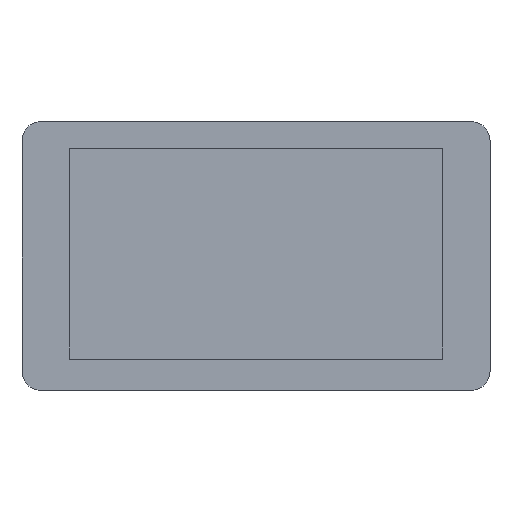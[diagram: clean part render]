
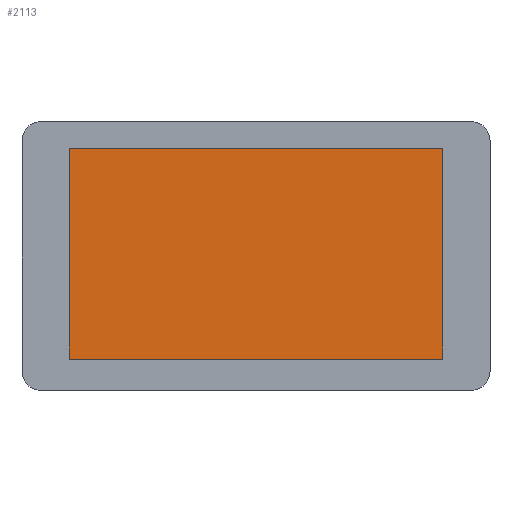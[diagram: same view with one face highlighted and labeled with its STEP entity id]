
A CAD part, top view. The second image highlights one B-rep face of the part: STEP entity #2113.
In plain terms, the highlighted planar face has unit normal (0, 0, 1).
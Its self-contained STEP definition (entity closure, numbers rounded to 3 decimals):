
#154=DIRECTION('',(0.,1.,0.));
#155=VECTOR('',#154,87.);
#156=CARTESIAN_POINT('',(77.,-42.5,1.4));
#157=LINE('',#156,#155);
#158=DIRECTION('',(1.,0.,0.));
#159=VECTOR('',#158,154.);
#160=CARTESIAN_POINT('',(-77.,-42.5,1.4));
#161=LINE('',#160,#159);
#162=DIRECTION('',(0.,-1.,0.));
#163=VECTOR('',#162,87.);
#164=CARTESIAN_POINT('',(-77.,44.5,1.4));
#165=LINE('',#164,#163);
#166=DIRECTION('',(-1.,0.,0.));
#167=VECTOR('',#166,154.);
#168=CARTESIAN_POINT('',(77.,44.5,1.4));
#169=LINE('',#168,#167);
#1858=CARTESIAN_POINT('',(77.,-42.5,1.4));
#1859=CARTESIAN_POINT('',(77.,44.5,1.4));
#1860=VERTEX_POINT('',#1858);
#1861=VERTEX_POINT('',#1859);
#1862=CARTESIAN_POINT('',(-77.,44.5,1.4));
#1863=VERTEX_POINT('',#1862);
#1864=CARTESIAN_POINT('',(-77.,-42.5,1.4));
#1865=VERTEX_POINT('',#1864);
#2102=CARTESIAN_POINT('',(0.,66.591,1.4));
#2103=DIRECTION('',(0.,0.,1.));
#2104=DIRECTION('',(1.,0.,0.));
#2105=AXIS2_PLACEMENT_3D('',#2102,#2103,#2104);
#2106=PLANE('',#2105);
#2107=ORIENTED_EDGE('',*,*,#2054,.F.);
#2108=ORIENTED_EDGE('',*,*,#2069,.F.);
#2109=ORIENTED_EDGE('',*,*,#2083,.F.);
#2110=ORIENTED_EDGE('',*,*,#2096,.F.);
#2111=EDGE_LOOP('',(#2107,#2108,#2109,#2110));
#2112=FACE_OUTER_BOUND('',#2111,.F.);
#2113=ADVANCED_FACE('',(#2112),#2106,.T.);
#2054=EDGE_CURVE('',#1860,#1861,#157,.T.);
#2069=EDGE_CURVE('',#1865,#1860,#161,.T.);
#2083=EDGE_CURVE('',#1863,#1865,#165,.T.);
#2096=EDGE_CURVE('',#1861,#1863,#169,.T.);
